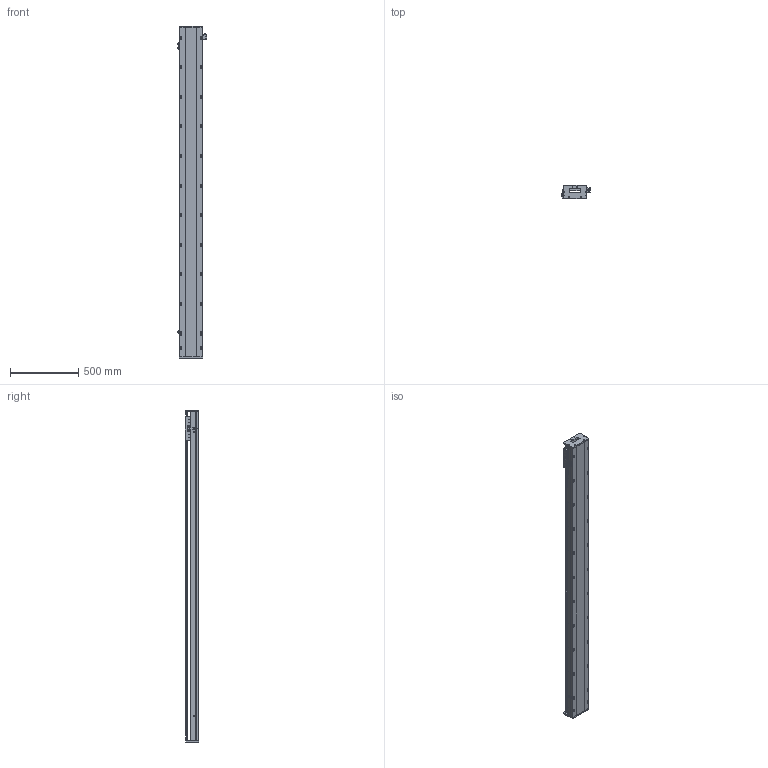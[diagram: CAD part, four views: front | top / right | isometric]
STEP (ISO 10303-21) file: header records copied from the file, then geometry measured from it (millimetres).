
FILE_DESCRIPTION (( 'STEP AP203' ), '1' );
FILE_NAME ('SKR17S-C1-S2154（简）.STEP', '2022-09-29T06:28:22', ( '' ), ( '' ), 'SwSTEP 2.0', 'SolidWorks 2018', '' );
FILE_SCHEMA (( 'CONFIG_CONTROL_DESIGN' ));
Length unit declared in the file: millimetre
Products named in the file (8): 感应片（SKR12S-14S-17S）; SKR17耜啣; SKR17底座-C1-S2154（简); SKR17S-C1-S2154（简）; SKR17滑台-170L（简）; EE-SX672; 棠掑假蚾輸; SIKO棠掑
Assembly tree (10 placements, depth 2):
  SKR17S-C1-S2154（简）
    SKR17底座-C1-S2154（简)
    SKR17滑台-170L（简）
    SIKO棠掑
    EE-SX672  x3
    SKR17耜啣  x2
    棠掑假蚾輸
    感应片（SKR12S-14S-17S）
Bounding box: 212.7 x 97 x 2424 mm (x, y, z)
Volume: 18513226.3 mm3; surface area: 2240135.6 mm2
Topology: 11 solids, 11 shells, 1377 faces, 3840 edges, 2469 vertices
Faces by surface type: cylinder 686, plane 551, cone 140
Entity records: 43398 total; most frequent: CARTESIAN_POINT 12089, ORIENTED_EDGE 6660, DIRECTION 6016, EDGE_CURVE 3330, VERTEX_POINT 2173, AXIS2_PLACEMENT_3D 2148, VECTOR 1720, LINE 1720
